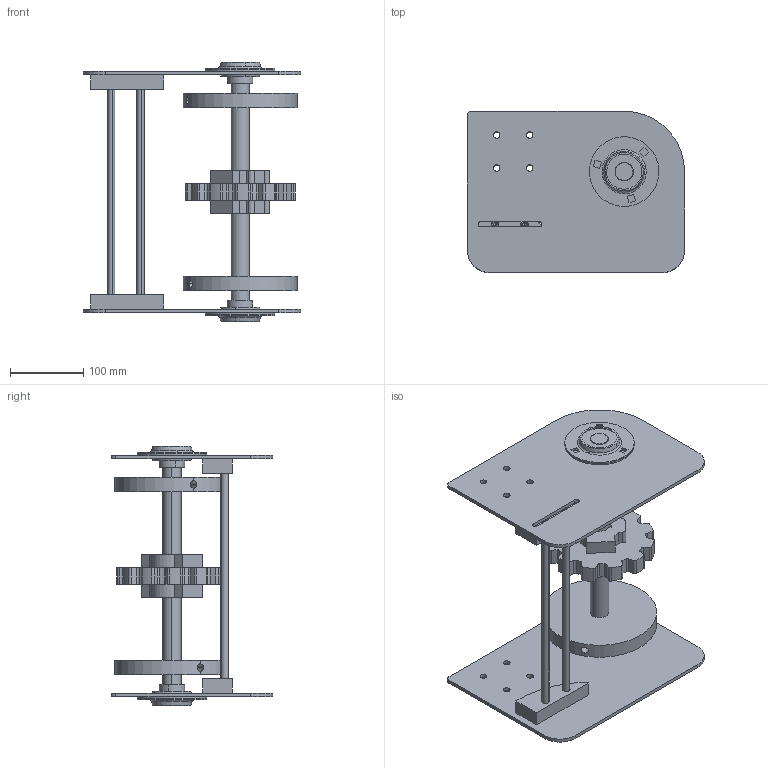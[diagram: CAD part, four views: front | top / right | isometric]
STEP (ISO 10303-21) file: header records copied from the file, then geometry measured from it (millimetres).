
FILE_DESCRIPTION (( 'STEP AP203' ), '1' );
FILE_NAME ('2000.1200.200.STEP', '2013-01-29T14:35:38', ( 'Alusic' ), ( 'Alusic' ), 'SwSTEP 2.0', 'SolidWorks 2011', '' );
FILE_SCHEMA (( 'CONFIG_CONTROL_DESIGN' ));
Length unit declared in the file: millimetre
Products named in the file (8): RUOTE DI TRAINO NS882_NS882T12R25; SBPF 205; 2000.001.013; 2000.1200.200; 2000.001.014; 2000.1200.104; 2000.001.015; 2000.1200.201
Assembly tree (12 placements, depth 2):
  2000.1200.200
    2000.001.013  x2
    2000.001.014  x2
    2000.1200.104  x2
    SBPF 205  x2
    2000.001.015  x2
    RUOTE DI TRAINO NS882_NS882T12R25
    2000.1200.201
Bounding box: 296.5 x 220 x 354 mm (x, y, z)
Volume: 2225431.5 mm3; surface area: 556337.7 mm2
Topology: 16 solids, 16 shells, 400 faces, 1080 edges, 702 vertices
Faces by surface type: cylinder 177, plane 163, cone 24, sphere 20, torus 16
Entity records: 9781 total; most frequent: CARTESIAN_POINT 1629, DIRECTION 1597, ORIENTED_EDGE 1450, EDGE_CURVE 725, AXIS2_PLACEMENT_3D 594, VERTEX_POINT 478, LINE 409, VECTOR 409
